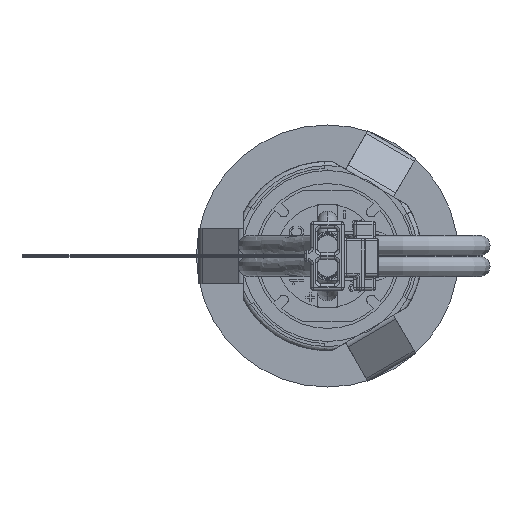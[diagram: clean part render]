
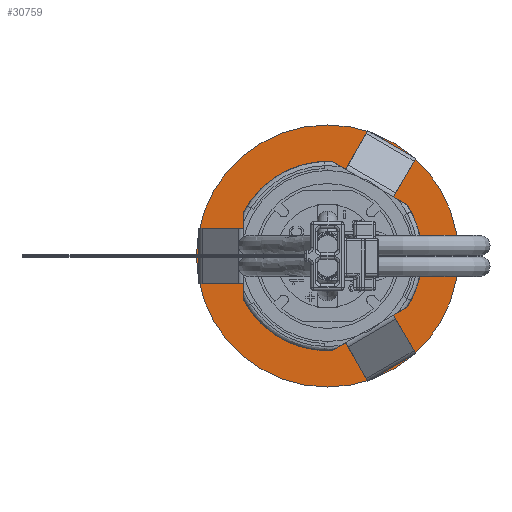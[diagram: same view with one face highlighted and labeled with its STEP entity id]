
A CAD part, front view. The second image highlights one B-rep face of the part: STEP entity #30759.
In plain terms, the highlighted planar face has unit normal (0, -1, 0).
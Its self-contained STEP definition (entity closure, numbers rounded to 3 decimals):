
#230 = EDGE_CURVE ( 'NONE', #25115, #15538, #22401, .T. ) ;
#619 = CARTESIAN_POINT ( 'NONE',  ( 0., 8.75, 6.45 ) ) ;
#752 = AXIS2_PLACEMENT_3D ( 'NONE', #5996, #19252, #19424 ) ;
#1434 = DIRECTION ( 'NONE',  ( 0., 0., -1. ) ) ;
#3155 = EDGE_LOOP ( 'NONE', ( #33701, #19564 ) ) ;
#4083 = CARTESIAN_POINT ( 'NONE',  ( 0., 8.75, 0. ) ) ;
#4686 = DIRECTION ( 'NONE',  ( 0., -1., 0. ) ) ;
#5726 = CARTESIAN_POINT ( 'NONE',  ( 0., 8.75, 0. ) ) ;
#5996 = CARTESIAN_POINT ( 'NONE',  ( 0., 8.75, 0. ) ) ;
#6428 = AXIS2_PLACEMENT_3D ( 'NONE', #33367, #25271, #32856 ) ;
#8685 = ORIENTED_EDGE ( 'NONE', *, *, #27032, .F. ) ;
#9700 = DIRECTION ( 'NONE',  ( 0., -1., 0. ) ) ;
#9978 = AXIS2_PLACEMENT_3D ( 'NONE', #4083, #9700, #1434 ) ;
#10044 = CIRCLE ( 'NONE', #25826, 9.5 ) ;
#12033 = CIRCLE ( 'NONE', #752, 6.45 ) ;
#14345 = DIRECTION ( 'NONE',  ( 0., 0., -1. ) ) ;
#15449 = DIRECTION ( 'NONE',  ( 0., 0., -1. ) ) ;
#15538 = VERTEX_POINT ( 'NONE', #33190 ) ;
#15703 = VERTEX_POINT ( 'NONE', #24494 ) ;
#16479 = DIRECTION ( 'NONE',  ( 0., -1., 0. ) ) ;
#16841 = ORIENTED_EDGE ( 'NONE', *, *, #230, .F. ) ;
#17244 = EDGE_CURVE ( 'NONE', #15703, #28173, #10044, .T. ) ;
#19252 = DIRECTION ( 'NONE',  ( 0., -1., 0. ) ) ;
#19424 = DIRECTION ( 'NONE',  ( 0., 0., -1. ) ) ;
#19509 = EDGE_LOOP ( 'NONE', ( #8685, #16841 ) ) ;
#19564 = ORIENTED_EDGE ( 'NONE', *, *, #17244, .T. ) ;
#19644 = FACE_BOUND ( 'NONE', #19509, .T. ) ;
#20148 = FACE_OUTER_BOUND ( 'NONE', #3155, .T. ) ;
#20758 = CARTESIAN_POINT ( 'NONE',  ( 0., 8.75, 0. ) ) ;
#22381 = EDGE_CURVE ( 'NONE', #28173, #15703, #30586, .T. ) ;
#22401 = CIRCLE ( 'NONE', #9978, 6.45 ) ;
#24494 = CARTESIAN_POINT ( 'NONE',  ( 0., 8.75, 9.5 ) ) ;
#25097 = PLANE ( 'NONE',  #6428 ) ;
#25115 = VERTEX_POINT ( 'NONE', #619 ) ;
#25271 = DIRECTION ( 'NONE',  ( 0., -1., 0. ) ) ;
#25826 = AXIS2_PLACEMENT_3D ( 'NONE', #5726, #16479, #14345 ) ;
#27032 = EDGE_CURVE ( 'NONE', #15538, #25115, #12033, .T. ) ;
#28173 = VERTEX_POINT ( 'NONE', #30000 ) ;
#30000 = CARTESIAN_POINT ( 'NONE',  ( 0., 8.75, -9.5 ) ) ;
#30031 = AXIS2_PLACEMENT_3D ( 'NONE', #20758, #4686, #15449 ) ;
#30586 = CIRCLE ( 'NONE', #30031, 9.5 ) ;
#30759 = ADVANCED_FACE ( 'NONE', ( #19644, #20148 ), #25097, .T. ) ;
#32856 = DIRECTION ( 'NONE',  ( 0., 0., -1. ) ) ;
#33190 = CARTESIAN_POINT ( 'NONE',  ( 0., 8.75, -6.45 ) ) ;
#33367 = CARTESIAN_POINT ( 'NONE',  ( 0., 8.75, 0. ) ) ;
#33701 = ORIENTED_EDGE ( 'NONE', *, *, #22381, .T. ) ;
